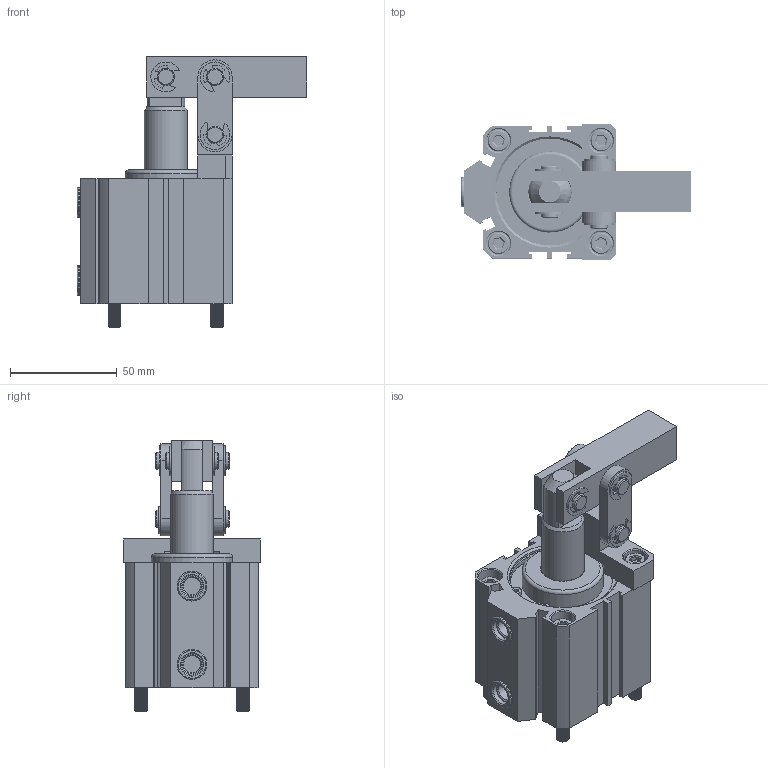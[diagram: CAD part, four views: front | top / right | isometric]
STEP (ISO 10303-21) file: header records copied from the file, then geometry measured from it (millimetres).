
FILE_DESCRIPTION(/* description */ ('STEP AP203'),/* implementation_level */ '2;1');
FILE_NAME(/* name */ 'E:\SERWER_ZAPAS\MODELE brakujace\PNEUMATIC\CALC(STEP)\CALC-50\CALC-50_ZAMKNIETY.stp',/* time_stamp */ '2019-02-06T16:55:39+01:00',/* author */ ('Admin'),/* organization */ ('Î¢ÈíÖÐ¹ú'),/* preprocessor_version */ 'ST-DEVELOPER v17.2',/* originating_system */ 'Autodesk Inventor 2019',/* authorisation */ '');
FILE_SCHEMA (('AUTOMOTIVE_DESIGN { 1 0 10303 214 3 1 1 }'));
Products named in the file (16): CALC-50_ZAMKNIETY; Ç°¸Ç50MS; ¿¨11; »îÈû; YABI; 1x4¶ÂÍ·MS50; 50HUOSAI¸Ë001; dyuan ; 65000301; 2000; ºó¸Ç; cang; 50±¾Ìå; 650003; lianggan; changka
Assembly tree (26 placements, depth 2):
  CALC-50_ZAMKNIETY
    cang  x2
    ¿¨11  x2
    changka  x6
    1x4¶ÂÍ·MS50  x2
    Ç°¸Ç50MS
    »îÈû
    YABI
    65000301  x2
    lianggan  x2
    650003  x2
    50HUOSAI¸Ë001
    dyuan 
    2000
    ºó¸Ç
    50±¾Ìå
Bounding box: 107.5 x 64 x 126.6 mm (x, y, z)
Volume: 208118.3 mm3; surface area: 97355.9 mm2
Topology: 26 solids, 26 shells, 763 faces, 2107 edges, 1451 vertices
Faces by surface type: cylinder 384, plane 287, cone 47, torus 26, bspline 19
Full cylindrical faces by diameter (mm): 2 x2, 2.131 x4, 6 x188, 6.8 x6, 7 x6, 8 x20, 10 x6, 11 x24, 14 x2, 17 x1, 18 x6, 20 x2, 26.839 x1, 27.2 x1, 30.5 x1, 35 x1, 36.5 x1, 38 x1, 39 x1, 40.521 x1, 42.5 x1, 43 x1, 44 x1, 45 x1, 48.8 x1, 50 x6, 52 x4
Entity records: 38907 total; most frequent: CARTESIAN_POINT 25826, ORIENTED_EDGE 2670, DIRECTION 2554, EDGE_CURVE 1335, AXIS2_PLACEMENT_3D 983, VERTEX_POINT 929, LINE 588, VECTOR 588
